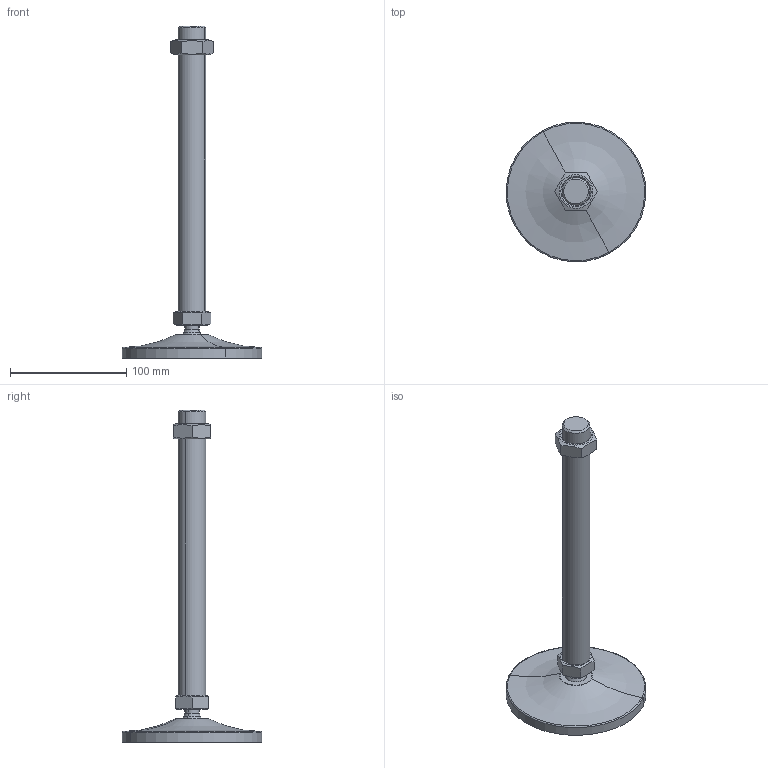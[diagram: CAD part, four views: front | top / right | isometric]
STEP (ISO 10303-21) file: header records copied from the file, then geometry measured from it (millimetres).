
FILE_DESCRIPTION(('CATIA V5 STEP Exchange'),'2;1');
FILE_NAME('C:\Users\ALI OZGUN\Desktop\alhan\saplama2\560122429.stp','2017-09-21T10:36:28+00:00',('none'),('none'),'CATIA Version 5 Release 21 GA (IN-10)','CATIA V5 STEP AP203','none');
FILE_SCHEMA(('CONFIG_CONTROL_DESIGN'));
Length unit declared in the file: millimetre
Products named in the file (1): 560122429
Bounding box: 119.97 x 119.97 x 285 mm (x, y, z)
Volume: 211878.3 mm3; surface area: 52930.8 mm2
Topology: 3 solids, 3 shells, 60 faces, 136 edges, 83 vertices
Faces by surface type: plane 20, cone 16, cylinder 14, torus 4, revolution 4, sphere 2
Entity records: 1857 total; most frequent: CARTESIAN_POINT 615, ORIENTED_EDGE 268, DIRECTION 185, EDGE_CURVE 134, AXIS2_PLACEMENT_3D 99, VERTEX_POINT 83, EDGE_LOOP 67, ADVANCED_FACE 60
